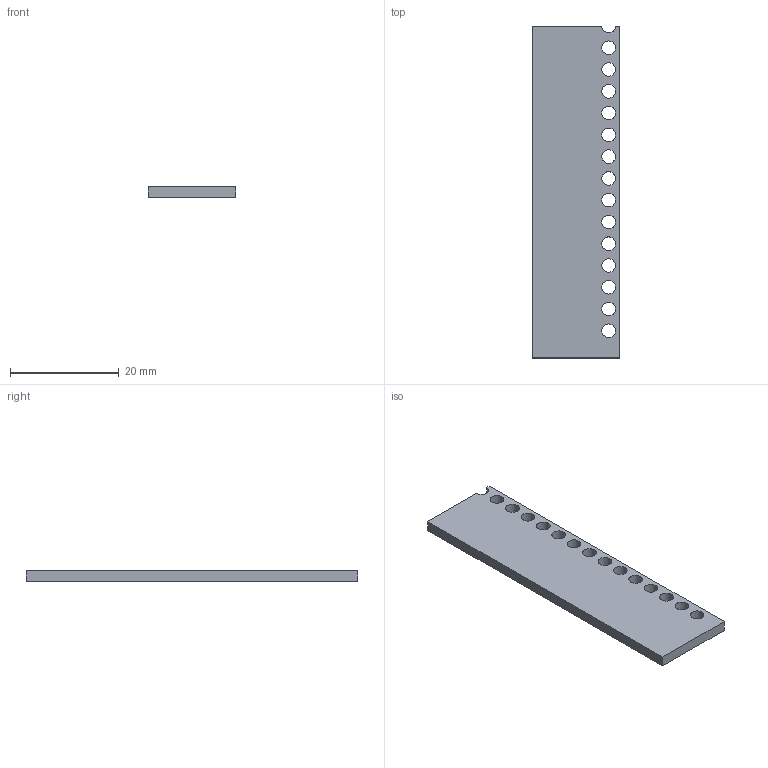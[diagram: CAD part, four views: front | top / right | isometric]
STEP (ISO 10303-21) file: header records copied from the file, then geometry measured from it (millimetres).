
FILE_DESCRIPTION(/* description */ (''),/* implementation_level */ '2;1');
FILE_NAME(/* name */ 'D:\SeaDrive\seadrive_root\郭世安\我的资料库\实验室\新冷阱平台\更新设计holder\加工stp文件\广东\【特氟龙】特氟龙【加工6个】.stp',/* time_stamp */ '2022-05-01T15:59:18+08:00',/* author */ ('guo'),/* organization */ (''),/* preprocessor_version */ 'ST-DEVELOPER v18',/* originating_system */ 'Autodesk Inventor 2020',/* authorisation */ '');
FILE_SCHEMA (('AUTOMOTIVE_DESIGN { 1 0 10303 214 3 1 1 }'));
Length unit declared in the file: millimetre
Products named in the file (1): 特氟龙
Bounding box: 16 x 61 x 2 mm (x, y, z)
Volume: 1809.6 mm3; surface area: 2340.4 mm2
Topology: 1 solids, 1 shells, 22 faces, 80 edges, 65 vertices
Faces by surface type: cylinder 15, plane 7
Full cylindrical faces by diameter (mm): 2.5 x14
Entity records: 995 total; most frequent: DIRECTION 166, CARTESIAN_POINT 162, ORIENTED_EDGE 148, EDGE_CURVE 74, AXIS2_PLACEMENT_3D 68, VERTEX_POINT 54, EDGE_LOOP 50, CIRCLE 45
